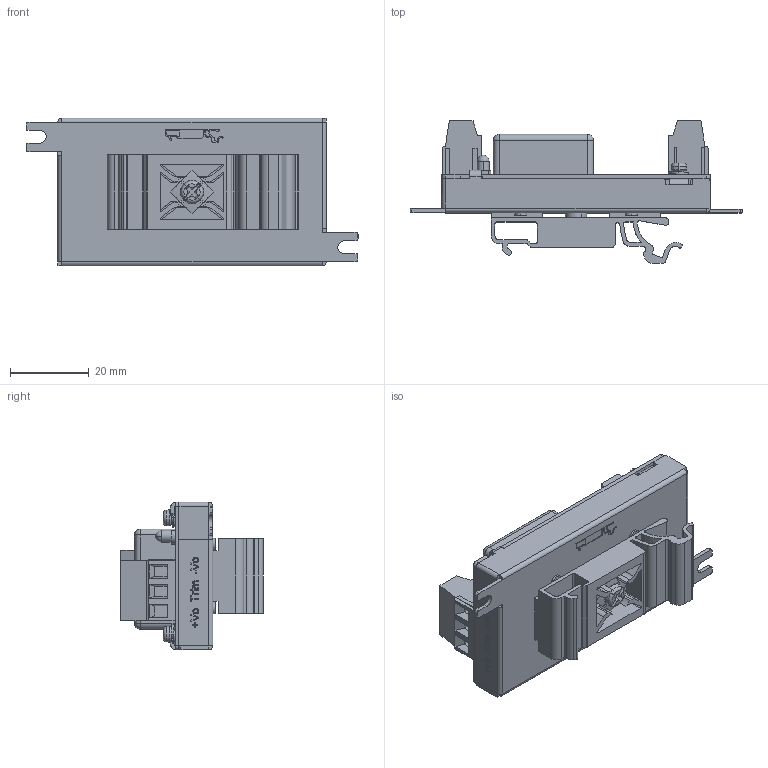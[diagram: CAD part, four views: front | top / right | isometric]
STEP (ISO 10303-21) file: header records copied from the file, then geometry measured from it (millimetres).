
FILE_DESCRIPTION (( 'STEP AP214' ), '1' );
FILE_NAME ('BDCD-11xxVC.STEP', '2025-03-27T15:09:19', ( '' ), ( '' ), 'SwSTEP 2.0', 'SolidWorks 2024', '' );
FILE_SCHEMA (( 'AUTOMOTIVE_DESIGN' ));
Products named in the file (1): BDCD-11xxVC
Bounding box: 84.2 x 36.2 x 37.5 mm (x, y, z)
Volume: 20270.4 mm3; surface area: 22647.3 mm2
Topology: 1 solids, 12 shells, 1175 faces, 3192 edges, 2090 vertices
Faces by surface type: plane 709, cylinder 312, bspline 81, cone 41, torus 26, sphere 6
Entity records: 53165 total; most frequent: CARTESIAN_POINT 24165, ORIENTED_EDGE 6372, DIRECTION 5555, EDGE_CURVE 3186, VERTEX_POINT 2090, LINE 2017, VECTOR 2017, AXIS2_PLACEMENT_3D 1769
